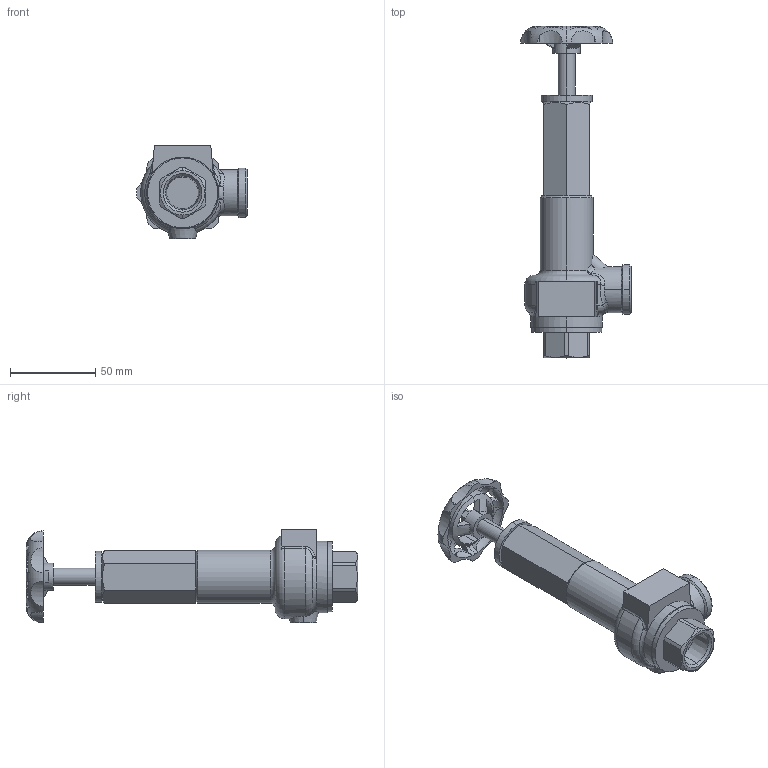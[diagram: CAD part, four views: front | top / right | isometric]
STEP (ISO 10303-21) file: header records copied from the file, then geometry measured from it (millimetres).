
FILE_DESCRIPTION (( 'STEP AP203' ), '1' );
FILE_NAME ('AL-150TR 15A.STEP', '2026-01-08T01:09:33', ( '' ), ( '' ), 'SwSTEP 2.0', 'SolidWorks 2024', '' );
FILE_SCHEMA (( 'CONFIG_CONTROL_DESIGN' ));
Length unit declared in the file: millimetre
Products named in the file (1): AL-150TR 15A
Bounding box: 64.99 x 194.5 x 55 mm (x, y, z)
Volume: 156115.7 mm3; surface area: 31291.7 mm2
Topology: 1 solids, 1 shells, 185 faces, 499 edges, 309 vertices
Faces by surface type: plane 73, cylinder 52, cone 25, torus 16, bspline 15, sphere 4
Entity records: 8079 total; most frequent: CARTESIAN_POINT 3512, ORIENTED_EDGE 994, DIRECTION 897, EDGE_CURVE 497, AXIS2_PLACEMENT_3D 364, VERTEX_POINT 309, EDGE_LOOP 202, CIRCLE 193
